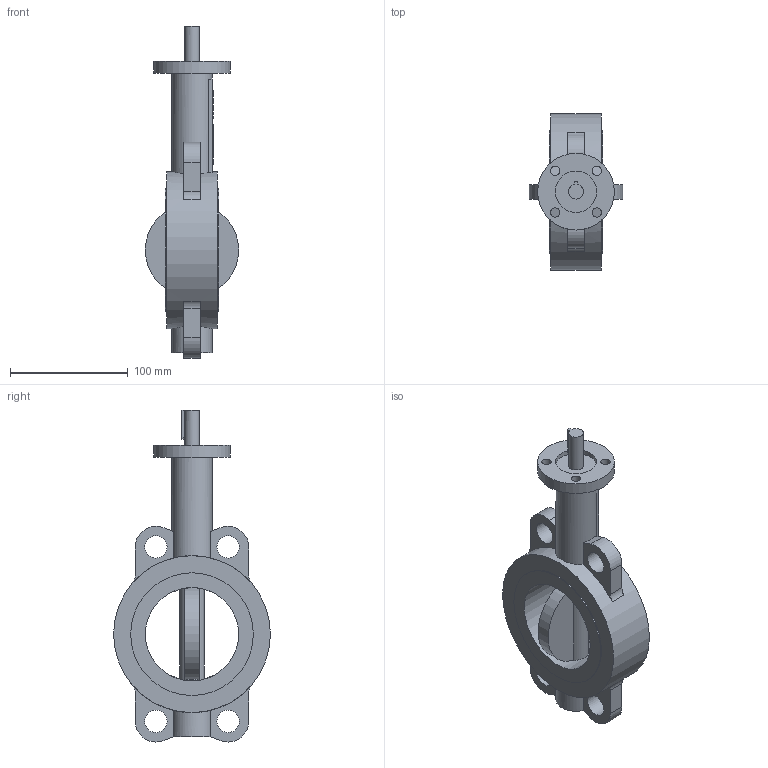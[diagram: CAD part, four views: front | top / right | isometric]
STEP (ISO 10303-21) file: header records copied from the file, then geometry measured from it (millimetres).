
FILE_DESCRIPTION(('STEP AP203'), '1');
FILE_NAME('Çàòâîð 017W.Z(ñòàëü) DN80 PN10_16 áåç èñï. ìåõ-ìà', '', ('UNSPECIFIED'), ('UNSPECIFIED'), 'ASCON STEP Converter 1.6', 'ASCON Math Kernel', '');
FILE_SCHEMA(('CONFIG_CONTROL_DESIGN'));
Length unit declared in the file: millimetre
Bounding box: 79.1 x 133 x 281.41 mm (x, y, z)
Volume: 629626.2 mm3; surface area: 91163.5 mm2
Topology: 1 solids, 1 shells, 620 faces, 1772 edges, 1181 vertices
Faces by surface type: cylinder 434, plane 186
Full cylindrical faces by diameter (mm): 8 x4, 12.6 x1, 19 x4, 21 x1, 34 x1, 35 x1, 65 x1, 79.1 x1, 104 x2, 133 x1
Entity records: 26247 total; most frequent: CARTESIAN_POINT 4223, DIRECTION 3854, ORIENTED_EDGE 3510, EDGE_CURVE 1755, AXIS2_PLACEMENT_3D 1494, VERTEX_POINT 1181, CIRCLE 873, LINE 866
